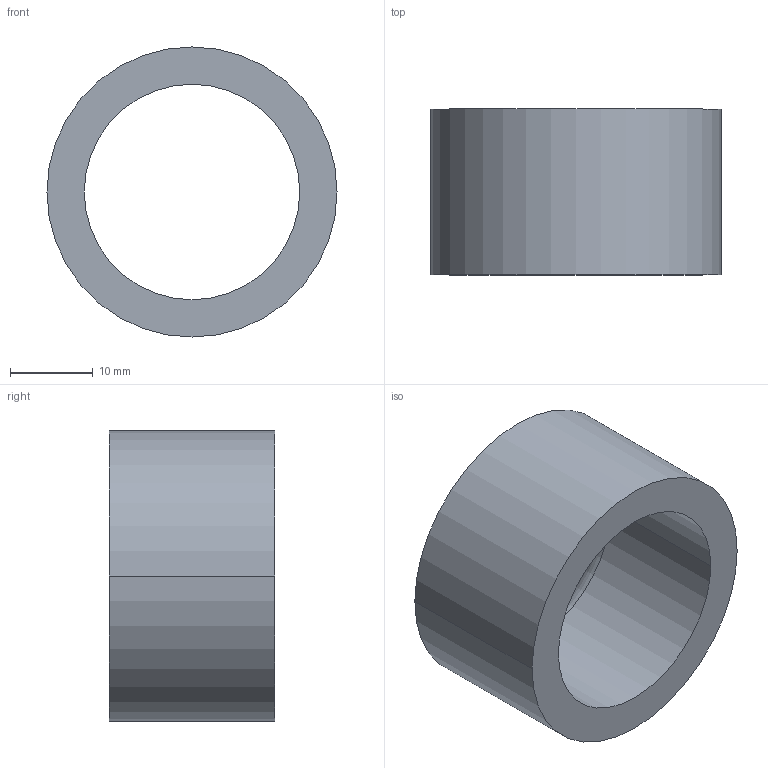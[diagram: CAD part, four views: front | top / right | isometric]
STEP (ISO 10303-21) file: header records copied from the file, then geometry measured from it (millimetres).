
FILE_DESCRIPTION (( 'STEP AP203' ), '1' );
FILE_NAME ('30800.WPP35H26.0.step', '2019-01-23T22:49:38', ( '' ), ( '' ), 'SwSTEP 2.0', 'SolidWorks 2017', '' );
FILE_SCHEMA (( 'CONFIG_CONTROL_DESIGN' ));
Length unit declared in the file: millimetre
Products named in the file (1): 30800.WPP35H26.0
Bounding box: 35 x 20 x 35 mm (x, y, z)
Volume: 8457.8 mm3; surface area: 4593.9 mm2
Topology: 1 solids, 1 shells, 8 faces, 16 edges, 10 vertices
Faces by surface type: cylinder 4, torus 2, plane 2
Entity records: 297 total; most frequent: DIRECTION 46, CARTESIAN_POINT 35, ORIENTED_EDGE 32, AXIS2_PLACEMENT_3D 21, EDGE_CURVE 16, CIRCLE 12, VERTEX_POINT 10, EDGE_LOOP 10
